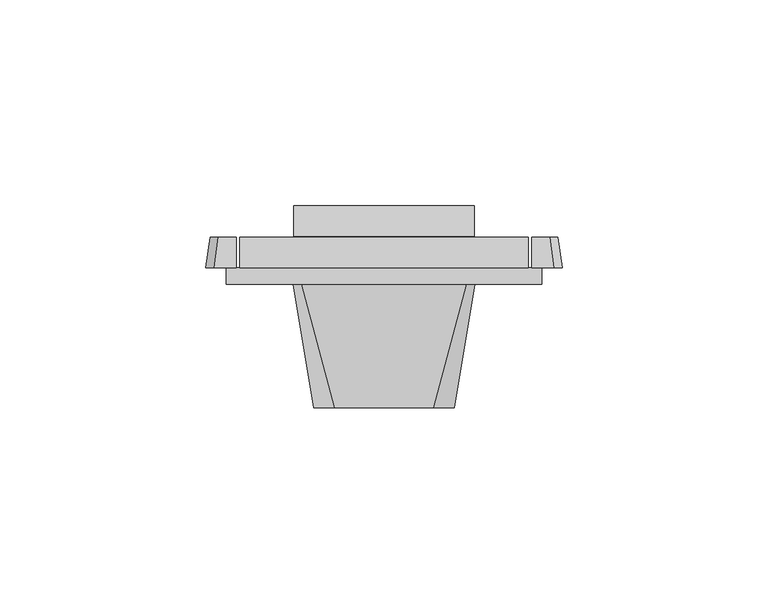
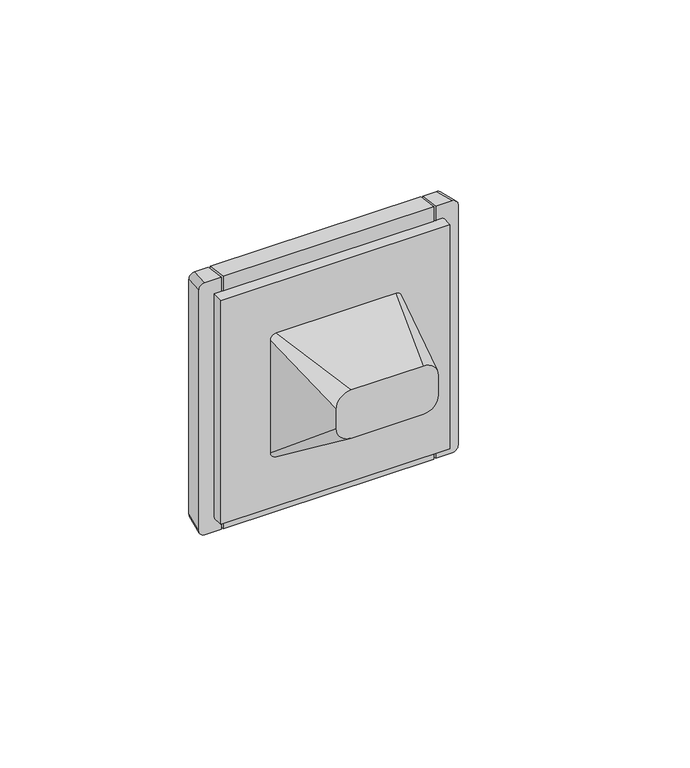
"""IFC4 building model written with IfcOpenShell, lengths in millimetres: proxy geometry, IEK_Forte&Piano_Подсветка, вывод кабеля : ВК_FP142."""

from ifc_helpers import new_model, si_unit, point, frame, origin, place, context, project, spatial, circle_curve, trimmed, faceted_brep, source, transform, mapped, element, save
from ifc_brep_helpers import plane_surface, extruded_surface, spline_surface, advanced_brep


def electrical_fixtures_96d3df49(model_context):
    return source(origin(), model_context, "Body", "SolidModel", [
        advanced_brep(
        [(35.0728499, 11.5, -43.5), (35.0728499, 11.5, 43.5), (35.0728499, 4.0, 44.5), (35.0728499, 4.0, 39.5), (35.0728499, 4.0, -39.5), (35.0728499, 4.0, -44.5), (35.8576533, 11.5, 43.5), (35.8576533, 11.5, -43.5), (35.8576533, 4.0, -44.5), (35.8576533, 4.0, -39.5), (35.8576533, 4.0, 39.5), (35.8576533, 4.0, 44.5), (-35.8576533, 11.5, -43.5), (-35.8576533, 11.5, 43.5), (-35.8576533, 4.0, 44.5), (-35.8576533, 4.0, 39.5), (-35.8576533, 4.0, -39.5), (-35.8576533, 4.0, -44.5), (-35.0728499, 11.5, 43.5), (-35.0728499, 11.5, -43.5), (-35.0728499, 4.0, -44.5), (-35.0728499, 4.0, -39.5), (-35.0728499, 4.0, 39.5), (-35.0728499, 4.0, 44.5), (40.25, 11.5, 43.5), (42.25, 11.5, 41.5), (42.25, 11.5, -41.5), (40.25, 11.5, -43.5), (-40.25, 11.5, -43.5), (-42.25, 11.5, -41.5), (-42.25, 11.5, 41.5), (-40.25, 11.5, 43.5), (22.7, 11.5, 22.7), (-22.7, 11.5, 22.7), (-22.7, 11.5, -22.7), (22.7, 11.5, -22.7), (-41.25, 4.0, 44.5), (-43.25, 4.0, 42.5), (-43.25, 4.0, -42.5), (-41.25, 4.0, -44.5), (-38.25, 4.0, -39.5), (-38.25, 4.0, 39.5), (41.25, 4.0, -44.5), (43.25, 4.0, -42.5), (43.25, 4.0, 42.5), (41.25, 4.0, 44.5), (38.25, 4.0, 39.5), (38.25, 4.0, -39.5), (-22.7, 4.0, 22.7), (22.7, 4.0, 22.7), (22.7, 4.0, -22.7), (-22.7, 4.0, -22.7), (-38.25, 0.0, 39.5), (-38.25, 0.0, -39.5), (38.25, 0.0, -39.5), (38.25, 0.0, 39.5)],
        [
            (0, 1),
            (1, 2),
            (2, 3),
            (3, 4),
            (4, 5),
            (5, 0),
            (6, 7),
            (7, 8),
            (8, 9),
            (9, 10),
            (10, 11),
            (11, 6),
            (12, 13),
            (13, 14),
            (14, 15),
            (15, 16),
            (16, 17),
            (17, 12),
            (18, 19),
            (19, 20),
            (20, 21),
            (21, 22),
            (22, 23),
            (23, 18),
            (24, 25, circle_curve(frame((40.25, 11.5, 41.5), z_axis=(0.0, 1.0, 0.0), x_axis=(-1.0, 0.0, 0.0)), 2.0)),
            (25, 26),
            (26, 27, circle_curve(frame((40.25, 11.5, -41.5), z_axis=(0.0, 1.0, 0.0), x_axis=(-1.0, 0.0, 0.0)), 2.0)),
            (27, 7),
            (6, 24),
            (28, 29, circle_curve(frame((-40.25, 11.5, -41.5), z_axis=(0.0, 1.0, 0.0), x_axis=(-1.0, 0.0, 0.0)), 2.0)),
            (29, 30),
            (30, 31, circle_curve(frame((-40.25, 11.5, 41.5), z_axis=(0.0, 1.0, 0.0), x_axis=(-1.0, 0.0, 0.0)), 2.0)),
            (31, 13),
            (12, 28),
            (18, 1),
            (0, 19),
            (32, 33),
            (33, 34),
            (34, 35),
            (35, 32),
            (36, 37, circle_curve(frame((-41.25, 4.0, 42.5), z_axis=(0.0, -1.0, 0.0), x_axis=(-1.0, 0.0, 0.0)), 2.0)),
            (37, 38),
            (38, 39, circle_curve(frame((-41.25, 4.0, -42.5), z_axis=(0.0, -1.0, 0.0), x_axis=(-1.0, 0.0, 0.0)), 2.0)),
            (39, 17),
            (16, 40),
            (40, 41),
            (41, 15),
            (14, 36),
            (42, 43, circle_curve(frame((41.25, 4.0, -42.5), z_axis=(0.0, -1.0, 0.0), x_axis=(-1.0, 0.0, 0.0)), 2.0)),
            (43, 44),
            (44, 45, circle_curve(frame((41.25, 4.0, 42.5), z_axis=(0.0, -1.0, 0.0), x_axis=(-1.0, 0.0, 0.0)), 2.0)),
            (45, 11),
            (10, 46),
            (46, 47),
            (47, 9),
            (8, 42),
            (2, 23),
            (22, 3),
            (20, 5),
            (4, 21),
            (45, 24),
            (31, 36),
            (44, 25),
            (43, 26),
            (42, 27),
            (39, 28),
            (38, 29),
            (37, 30),
            (48, 33),
            (32, 49),
            (49, 48),
            (35, 50),
            (50, 49),
            (34, 51),
            (51, 50),
            (48, 51),
            (21, 16),
            (15, 22),
            (9, 4),
            (3, 10),
            (52, 53),
            (53, 54),
            (54, 55),
            (55, 52),
            (52, 41),
            (40, 53),
            (47, 54),
            (46, 55),
        ],
        [
            plane_surface(frame((35.0728499, 11.5, -44.5), z_axis=(1.0, 0.0, 0.0), x_axis=(0.0, -1.0, 0.0))),
            plane_surface(frame((35.8576533, 11.5, 44.5), z_axis=(-1.0, 0.0, 0.0), x_axis=(0.0, -1.0, 0.0))),
            plane_surface(frame((-35.8576533, 11.5, -44.5), z_axis=(1.0, 0.0, 0.0), x_axis=(0.0, -1.0, 0.0))),
            plane_surface(frame((-35.0728499, 11.5, 44.5), z_axis=(-1.0, 0.0, 0.0), x_axis=(0.0, -1.0, 0.0))),
            plane_surface(frame((0.0, 11.5, 0.0), z_axis=(0.0, 1.0, 0.0), x_axis=(1.0, 0.0, 0.0))),
            plane_surface(frame((0.0, 4.0, 0.0), z_axis=(0.0, -1.0, 0.0), x_axis=(1.0, 0.0, 0.0))),
            plane_surface(frame((0.0, 4.0, 44.5), z_axis=(0.0, 0.13216372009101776, 0.9912279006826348), x_axis=(1.0, 0.0, 0.0))),
            extruded_surface(trimmed(circle_curve(frame((41.25, 4.0, 42.5), z_axis=(0.0, 1.0, 0.0), x_axis=(-1.0, 0.0, 0.0)), 2.0), [point((41.25, 4.0, 44.5))], [point((43.25, 4.0, 42.5))], True, "CARTESIAN"), (-1.0, 7.5, -1.0), 7.632168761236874),
            plane_surface(frame((43.25, 4.0, 0.0), z_axis=(0.9912279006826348, 0.13216372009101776, 0.0), x_axis=(0.0, 0.0, -1.0))),
            extruded_surface(trimmed(circle_curve(frame((41.25, 4.0, -42.5), z_axis=(0.0, 1.0, 0.0), x_axis=(-1.0, 0.0, 0.0)), 2.0), [point((43.25, 4.0, -42.5))], [point((41.25, 4.0, -44.5))], True, "CARTESIAN"), (-1.0, 7.5, 1.0), 7.632168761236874),
            plane_surface(frame((0.0, 4.0, -44.5), z_axis=(0.0, 0.13216372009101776, -0.9912279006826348), x_axis=(-1.0, 0.0, 0.0))),
            extruded_surface(trimmed(circle_curve(frame((-41.25, 4.0, -42.5), z_axis=(0.0, 1.0, 0.0), x_axis=(-1.0, 0.0, 0.0)), 2.0), [point((-41.25, 4.0, -44.5))], [point((-43.25, 4.0, -42.5))], True, "CARTESIAN"), (1.0, 7.5, 1.0), 7.632168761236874),
            plane_surface(frame((-43.25, 4.0, 0.0), z_axis=(-0.9912279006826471, 0.13216372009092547, 0.0), x_axis=(0.0, 0.0, 1.0))),
            extruded_surface(trimmed(circle_curve(frame((-41.25, 4.0, 42.5), z_axis=(0.0, 1.0, 0.0), x_axis=(-1.0, 0.0, 0.0)), 2.0), [point((-43.25, 4.0, 42.5))], [point((-41.25, 4.0, 44.5))], True, "CARTESIAN"), (1.0, 7.5, -1.0), 7.632168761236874),
            plane_surface(frame((-22.7, 11.6, 22.7), z_axis=(0.0, 0.0, -1.0), x_axis=(0.0, -1.0, 0.0))),
            plane_surface(frame((22.7, 11.6, 22.7), z_axis=(-1.0, 0.0, 0.0), x_axis=(0.0, -1.0, 0.0))),
            plane_surface(frame((22.7, 11.6, -22.7), z_axis=(0.0, 0.0, 1.0), x_axis=(0.0, -1.0, 0.0))),
            plane_surface(frame((-22.7, 11.6, -22.7), z_axis=(1.0, 0.0, 0.0), x_axis=(0.0, -1.0, 0.0))),
            plane_surface(frame((-38.25, 4.0, 39.5), z_axis=(0.0, 1.0, 0.0), x_axis=(0.0, 0.0, 1.0))),
            plane_surface(frame((-38.25, 0.0, 39.5), z_axis=(0.0, -1.0, 0.0), x_axis=(0.0, 0.0, -1.0))),
            plane_surface(frame((-38.25, 0.0, 39.5), z_axis=(-1.0, 0.0, 0.0), x_axis=(0.0, 1.0, 0.0))),
            plane_surface(frame((-38.25, 0.0, -39.5), z_axis=(0.0, 0.0, -1.0), x_axis=(0.0, 1.0, 0.0))),
            plane_surface(frame((38.25, 0.0, -39.5), z_axis=(1.0, 0.0, 0.0), x_axis=(0.0, 1.0, 0.0))),
            plane_surface(frame((38.25, 0.0, 39.5), z_axis=(0.0, 0.0, 1.0), x_axis=(0.0, 1.0, 0.0))),
        ],
        [
            (0, [[1, 2, 3, 4, 5, 6]]),
            (1, [[7, 8, 9, 10, 11, 12]]),
            (2, [[13, 14, 15, 16, 17, 18]]),
            (3, [[19, 20, 21, 22, 23, 24]]),
            (4, [[25, 26, 27, 28, -7, 29]]),
            (4, [[30, 31, 32, 33, -13, 34]]),
            (4, [[35, -1, 36, -19], [37, 38, 39, 40]]),
            (5, [[41, 42, 43, 44, -17, 45, 46, 47, -15, 48]]),
            (5, [[49, 50, 51, 52, -11, 53, 54, 55, -9, 56]]),
            (5, [[57, -23, 58, -3]]),
            (5, [[59, -5, 60, -21]]),
            (6, [[-57, -2, -35, -24]]),
            (6, [[61, -29, -12, -52]]),
            (6, [[62, -48, -14, -33]]),
            (7, [[-25, -61, -51, 63]]),
            (8, [[-26, -63, -50, 64]]),
            (9, [[-27, -64, -49, 65]]),
            (10, [[-59, -20, -36, -6]]),
            (10, [[-65, -56, -8, -28]]),
            (10, [[66, -34, -18, -44]]),
            (11, [[-30, -66, -43, 67]]),
            (12, [[-31, -67, -42, 68]]),
            (13, [[-32, -68, -41, -62]]),
            (14, [[69, -37, 70, 71]]),
            (15, [[-70, -40, 72, 73]]),
            (16, [[-72, -39, 74, 75]]),
            (17, [[-69, 76, -74, -38]]),
            (18, [[-71, -73, -75, -76]]),
            (18, [[77, -16, 78, -22]]),
            (18, [[79, -4, 80, -10]]),
            (19, [[81, 82, 83, 84]]),
            (20, [[-81, 85, -46, 86]]),
            (21, [[-82, -86, -45, -77, -60, -79, -55, 87]]),
            (22, [[-83, -87, -54, 88]]),
            (23, [[-84, -88, -53, -80, -58, -78, -47, -85]]),
        ],
    ),
        faceted_brep([(21.9, 11.6, 21.9), (21.9, 0.0, 21.9), (21.9, 0.0, -21.9), (21.9, 19.0555556, -21.9), (-21.9, 11.6, 21.9), (-21.9, 19.0555556, -21.9), (-21.9, 0.0, -21.9), (-21.9, 0.0, 21.9), (-7.0, 0.0, -21.9), (-7.0, 0.0, 18.4553243), (7.0, 0.0, 18.4553243), (7.0, 0.0, -21.9), (7.0, 16.8313006, -21.9), (-7.0, 16.8118626, -21.9), (7.0, 8.9675822, 18.4553243), (-7.0, 8.9675822, 18.4553243)], [[[0, 1, 2, 3]], [[4, 5, 6, 7]], [[1, 0, 4, 7]], [[2, 1, 7, 6, 8, 9, 10, 11]], [[3, 2, 11, 12, 13, 8, 6, 5]], [[0, 3, 5, 4]], [[10, 14, 12, 11]], [[13, 15, 9, 8]], [[12, 14, 15, 13]], [[14, 10, 9, 15]]]),
        advanced_brep(
        [(-12.0, -30.0, 17.0), (-17.0, -30.0, 12.0), (-17.0, -30.0, 5.0), (-12.0, -30.0, 0.0), (12.0, -30.0, 0.0), (17.0, -30.0, 5.0), (17.0, -30.0, 12.0), (12.0, -30.0, 17.0), (-20.0, 0.0, 22.0), (20.0, 0.0, 22.0), (22.0, 0.0, 20.0), (22.0, 0.0, -20.0), (20.0, 0.0, -22.0), (-20.0, 0.0, -22.0), (-22.0, 0.0, -20.0), (-22.0, 0.0, 20.0)],
        [
            (0, 1, circle_curve(frame((-12.0, -30.0, 12.0), z_axis=(0.0, -1.0, 0.0), x_axis=(1.0, 0.0, 0.0)), 5.0)),
            (1, 2),
            (2, 3, circle_curve(frame((-12.0, -30.0, 5.0), z_axis=(0.0, -1.0, 0.0), x_axis=(1.0, 0.0, 0.0)), 5.0)),
            (3, 4),
            (4, 5, circle_curve(frame((12.0, -30.0, 5.0), z_axis=(0.0, -1.0, 0.0), x_axis=(1.0, 0.0, 0.0)), 5.0)),
            (5, 6),
            (6, 7, circle_curve(frame((12.0, -30.0, 12.0), z_axis=(0.0, -1.0, 0.0), x_axis=(1.0, 0.0, 0.0)), 5.0)),
            (7, 0),
            (8, 9),
            (9, 10, circle_curve(frame((20.0, 0.0, 20.0), z_axis=(0.0, 1.0, 0.0), x_axis=(1.0, 0.0, 0.0)), 2.0)),
            (10, 11),
            (11, 12, circle_curve(frame((20.0, 0.0, -20.0), z_axis=(0.0, 1.0, 0.0), x_axis=(1.0, 0.0, 0.0)), 2.0)),
            (12, 13),
            (13, 14, circle_curve(frame((-20.0, 0.0, -20.0), z_axis=(0.0, 1.0, 0.0), x_axis=(1.0, 0.0, 0.0)), 2.0)),
            (14, 15),
            (15, 8, circle_curve(frame((-20.0, 0.0, 20.0), z_axis=(0.0, 1.0, 0.0), x_axis=(1.0, 0.0, 0.0)), 2.0)),
            (8, 0),
            (7, 9),
            (6, 10),
            (5, 11),
            (4, 12),
            (3, 13),
            (2, 14),
            (1, 15),
        ],
        [
            plane_surface(frame((0.0, -30.0, 8.5), z_axis=(0.0, -1.0, 0.0), x_axis=(-1.0, 0.0, 0.0))),
            plane_surface(frame((0.0, 0.0, 0.0), z_axis=(0.0, 1.0, 0.0), x_axis=(-1.0, 0.0, 0.0))),
            plane_surface(frame((0.0, 0.0, 22.0), z_axis=(0.0, -0.16439898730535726, 0.9863939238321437), x_axis=(-1.0, 0.0, 0.0))),
            spline_surface(2, 1, [[(22.0, 0.0, 20.0), (17.0, -30.0, 12.0)], [(22.0, 0.0, 22.0), (17.0, -30.0, 17.0)], [(20.0, 0.0, 22.0), (12.0, -30.0, 17.0)]], [3, 3], [2, 2], [0.0, 1.0], [0.0, 1.0], weights=[[1.0, 1.0], [0.7071067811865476, 0.7071067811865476], [1.0, 1.0]]),
            plane_surface(frame((22.0, 0.0, 0.0), z_axis=(0.9863939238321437, -0.1643989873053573, 0.0), x_axis=(0.0, 0.0, 1.0))),
            spline_surface(2, 1, [[(20.0, 0.0, -22.0), (12.0, -30.0, 0.0)], [(22.0, 0.0, -22.0), (17.0, -30.0, 0.0)], [(22.0, 0.0, -20.0), (17.0, -30.0, 5.0)]], [3, 3], [2, 2], [0.0, 1.0], [0.0, 1.0], weights=[[1.0, 1.0], [0.7071067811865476, 0.7071067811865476], [1.0, 1.0]]),
            plane_surface(frame((0.0, 0.0, -22.0), z_axis=(0.0, -0.591363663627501, -0.8064049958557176), x_axis=(1.0, 0.0, 0.0))),
            spline_surface(2, 1, [[(-22.0, 0.0, -20.0), (-17.0, -30.0, 5.0)], [(-22.0, 0.0, -22.0), (-17.0, -30.0, 0.0)], [(-20.0, 0.0, -22.0), (-12.0, -30.0, 0.0)]], [3, 3], [2, 2], [0.0, 1.0], [0.0, 1.0], weights=[[1.0, 1.0], [0.7071067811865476, 0.7071067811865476], [1.0, 1.0]]),
            plane_surface(frame((-22.0, 0.0, 0.0), z_axis=(-0.9863939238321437, -0.1643989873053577, 0.0), x_axis=(0.0, 0.0, -1.0))),
            spline_surface(2, 1, [[(-20.0, 0.0, 22.0), (-12.0, -30.0, 17.0)], [(-22.0, 0.0, 22.0), (-17.0, -30.0, 17.0)], [(-22.0, 0.0, 20.0), (-17.0, -30.0, 12.0)]], [3, 3], [2, 2], [0.0, 1.0], [0.0, 1.0], weights=[[1.0, 1.0], [0.7071067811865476, 0.7071067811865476], [1.0, 1.0]]),
        ],
        [
            (0, [[1, 2, 3, 4, 5, 6, 7, 8]]),
            (1, [[9, 10, 11, 12, 13, 14, 15, 16]]),
            (2, [[-9, 17, -8, 18]]),
            (3, [[-10, -18, -7, 19]]),
            (4, [[-11, -19, -6, 20]]),
            (5, [[-12, -20, -5, 21]]),
            (6, [[-13, -21, -4, 22]]),
            (7, [[-14, -22, -3, 23]]),
            (8, [[-15, -23, -2, 24]]),
            (9, [[-16, -24, -1, -17]]),
        ],
    ),
    ])


if __name__ == "__main__":
    model = new_model("IFC4")
    model_context = context("Model", 3, world=origin())
    ifc_project = project(units=[si_unit("LENGTHUNIT", "METRE", prefix="MILLI")], contexts=[model_context])
    site = spatial("IfcSite", under=ifc_project)
    building = spatial("IfcBuilding", under=site)
    placement = place(None, origin())
    electrical_fixtures_shape = electrical_fixtures_96d3df49(model_context)
    element("IfcBuildingElementProxy", 1, Name="IEK_Forte&Piano_Подсветка, вывод кабеля : ВК_FP142", ObjectType="IEK_Forte&Piano_Подсветка, вывод кабеля : ВК_FP142", at=placement, inside=building, context=model_context, shape_type="MappedRepresentation", body=[
        mapped(electrical_fixtures_shape, transform((0.0, 0.0, 0.0), x_axis=(1.0, 0.0, 0.0), y_axis=(0.0, 1.0, 0.0), z_axis=(0.0, 0.0, 1.0))),
    ])
    save(model, "model.ifc")
